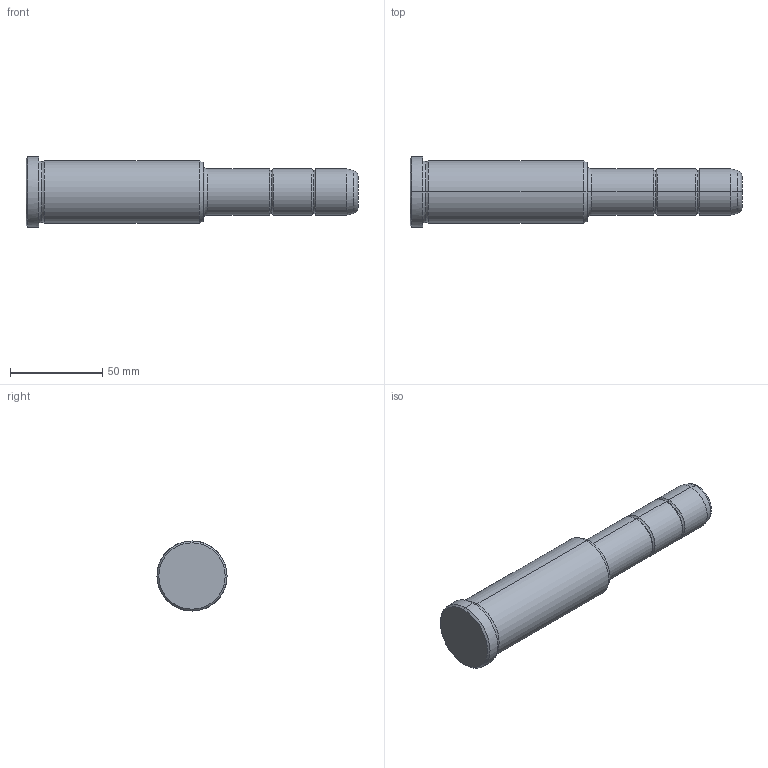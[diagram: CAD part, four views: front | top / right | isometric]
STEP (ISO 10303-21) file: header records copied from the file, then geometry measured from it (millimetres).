
FILE_DESCRIPTION(('CATIA V5 STEP Exchange'),'2;1');
FILE_NAME('C:\Users\Utente\Desktop\IO LAVORO\3D X SITO CF\X SITO\PLASTICA\351\351-25X96X180.stp','2021-09-07T12:19:58+00:00',('none'),('none'),'CATIA Version 5 Release 20 GA (IN-10)','CATIA V5 STEP AP203','none');
FILE_SCHEMA(('CONFIG_CONTROL_DESIGN'));
Length unit declared in the file: millimetre
Products named in the file (1): 351-25X96X180
Bounding box: 180 x 38 x 38 mm (x, y, z)
Volume: 129188.1 mm3; surface area: 18897.7 mm2
Topology: 1 solids, 1 shells, 36 faces, 102 edges, 70 vertices
Faces by surface type: torus 16, cylinder 10, cone 6, plane 4
Entity records: 1292 total; most frequent: CARTESIAN_POINT 321, ORIENTED_EDGE 204, DIRECTION 166, AXIS2_PLACEMENT_3D 115, EDGE_CURVE 102, CIRCLE 78, VERTEX_POINT 70, EDGE_LOOP 38
